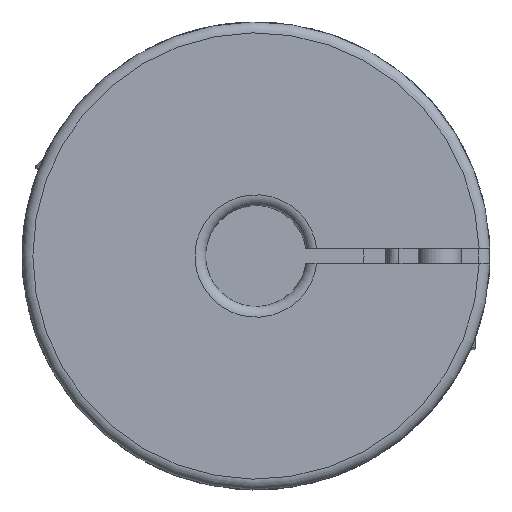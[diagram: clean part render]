
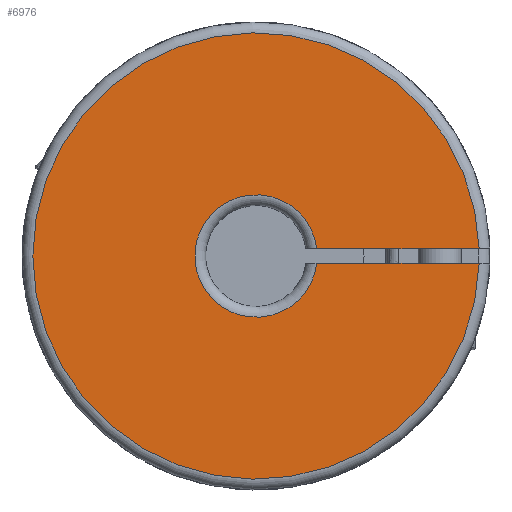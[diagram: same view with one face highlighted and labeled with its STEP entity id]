
A CAD part, front view. The second image highlights one B-rep face of the part: STEP entity #6976.
In plain terms, the highlighted planar face has unit normal (0, -1, 0).
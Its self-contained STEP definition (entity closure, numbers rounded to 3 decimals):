
#51 = CARTESIAN_POINT ( 'NONE',  ( -8.5, 0., 0. ) ) ;
#286 = CIRCLE ( 'NONE', #436, 31. ) ;
#294 = ORIENTED_EDGE ( 'NONE', *, *, #3559, .T. ) ;
#436 = AXIS2_PLACEMENT_3D ( 'NONE', #644, #6955, #3419 ) ;
#492 = DIRECTION ( 'NONE',  ( 0., -1., 0. ) ) ;
#644 = CARTESIAN_POINT ( 'NONE',  ( 0., 0., 0. ) ) ;
#784 = LINE ( 'NONE', #6405, #2477 ) ;
#1133 = CARTESIAN_POINT ( 'NONE',  ( 0., 0., 0. ) ) ;
#1897 = AXIS2_PLACEMENT_3D ( 'NONE', #1133, #492, #1948 ) ;
#1948 = DIRECTION ( 'NONE',  ( 0., 0., -1. ) ) ;
#2228 = DIRECTION ( 'NONE',  ( 0., 0., -1. ) ) ;
#2477 = VECTOR ( 'NONE', #2228, 1000. ) ;
#2663 = VERTEX_POINT ( 'NONE', #6962 ) ;
#2810 = CARTESIAN_POINT ( 'NONE',  ( -1., 0., -34.778 ) ) ;
#3138 = EDGE_CURVE ( 'NONE', #7994, #6784, #286, .T. ) ;
#3345 = EDGE_CURVE ( 'NONE', #2663, #3915, #5085, .T. ) ;
#3419 = DIRECTION ( 'NONE',  ( 0., 0., -1. ) ) ;
#3498 = LINE ( 'NONE', #2810, #5388 ) ;
#3520 = EDGE_LOOP ( 'NONE', ( #5771, #294, #3569, #5586 ) ) ;
#3559 = EDGE_CURVE ( 'NONE', #6784, #3915, #3498, .T. ) ;
#3569 = ORIENTED_EDGE ( 'NONE', *, *, #3345, .F. ) ;
#3915 = VERTEX_POINT ( 'NONE', #6731 ) ;
#4180 = EDGE_CURVE ( 'NONE', #2663, #7994, #784, .T. ) ;
#4976 = DIRECTION ( 'NONE',  ( 0., 0., 1. ) ) ;
#5085 = CIRCLE ( 'NONE', #1897, 8.5 ) ;
#5388 = VECTOR ( 'NONE', #8429, 1000. ) ;
#5444 = CARTESIAN_POINT ( 'NONE',  ( -1., 0., -30.984 ) ) ;
#5586 = ORIENTED_EDGE ( 'NONE', *, *, #4180, .T. ) ;
#5771 = ORIENTED_EDGE ( 'NONE', *, *, #3138, .T. ) ;
#6359 = DIRECTION ( 'NONE',  ( 0., 1., 0. ) ) ;
#6405 = CARTESIAN_POINT ( 'NONE',  ( 1., 0., -34.778 ) ) ;
#6731 = CARTESIAN_POINT ( 'NONE',  ( -1., 0., -8.441 ) ) ;
#6784 = VERTEX_POINT ( 'NONE', #5444 ) ;
#6955 = DIRECTION ( 'NONE',  ( 0., -1., 0. ) ) ;
#6962 = CARTESIAN_POINT ( 'NONE',  ( 1., 0., -8.441 ) ) ;
#6976 = ADVANCED_FACE ( 'NONE', ( #8360 ), #7150, .F. ) ;
#7150 = PLANE ( 'NONE',  #7963 ) ;
#7963 = AXIS2_PLACEMENT_3D ( 'NONE', #51, #6359, #4976 ) ;
#7994 = VERTEX_POINT ( 'NONE', #8245 ) ;
#8245 = CARTESIAN_POINT ( 'NONE',  ( 1., 0., -30.984 ) ) ;
#8360 = FACE_OUTER_BOUND ( 'NONE', #3520, .T. ) ;
#8429 = DIRECTION ( 'NONE',  ( 0., 0., 1. ) ) ;
